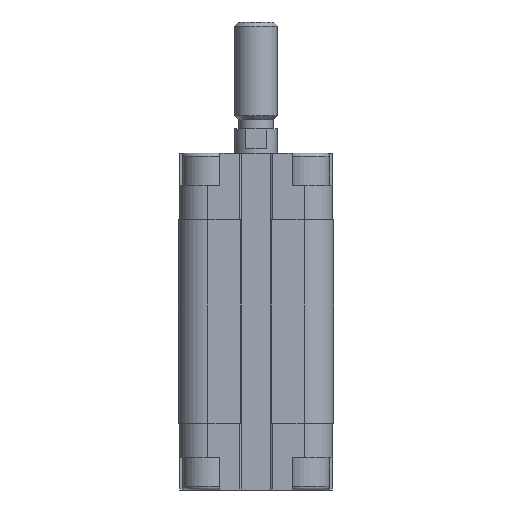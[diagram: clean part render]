
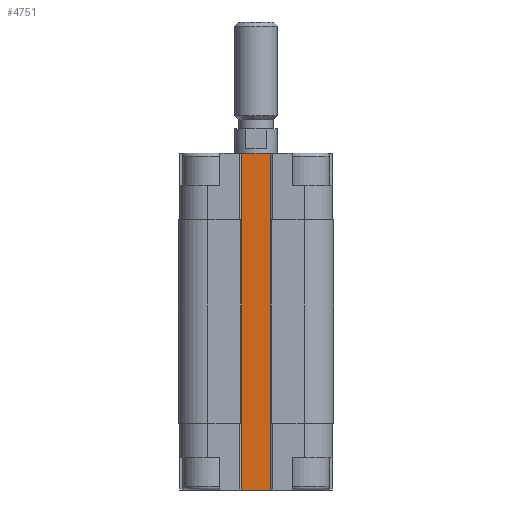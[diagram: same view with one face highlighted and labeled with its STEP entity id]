
A CAD part, front view. The second image highlights one B-rep face of the part: STEP entity #4751.
In plain terms, the highlighted planar face has unit normal (0, -1, 0).
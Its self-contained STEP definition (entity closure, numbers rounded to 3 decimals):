
#383 = DIRECTION ( 'NONE',  ( 0., 0., 1. ) ) ;
#384 = CARTESIAN_POINT ( 'NONE',  ( 3.2, -9.5, -12.5 ) ) ;
#398 = DIRECTION ( 'NONE',  ( 1., 0., 0. ) ) ;
#995 = DIRECTION ( 'NONE',  ( 0., -1., 0. ) ) ;
#1603 = LINE ( 'NONE', #5658, #8172 ) ;
#1624 = AXIS2_PLACEMENT_3D ( 'NONE', #15915, #995, #2578 ) ;
#1712 = CARTESIAN_POINT ( 'NONE',  ( -3., -9.5, -63. ) ) ;
#1812 = EDGE_LOOP ( 'NONE', ( #7230, #3073, #16179, #3299, #11710, #7163, #3536, #6848, #10404, #12597, #16620, #10154 ) ) ;
#2199 = LINE ( 'NONE', #10099, #15959 ) ;
#2317 = PLANE ( 'NONE',  #1624 ) ;
#2375 = VERTEX_POINT ( 'NONE', #1712 ) ;
#2422 = EDGE_CURVE ( 'NONE', #13004, #3143, #13566, .T. ) ;
#2578 = DIRECTION ( 'NONE',  ( -1., 0., 0. ) ) ;
#3073 = ORIENTED_EDGE ( 'NONE', *, *, #7999, .F. ) ;
#3143 = VERTEX_POINT ( 'NONE', #15810 ) ;
#3166 = CARTESIAN_POINT ( 'NONE',  ( 3., -9.5, 0. ) ) ;
#3299 = ORIENTED_EDGE ( 'NONE', *, *, #17284, .F. ) ;
#3475 = CARTESIAN_POINT ( 'NONE',  ( -3.2, -9.5, -50.5 ) ) ;
#3536 = ORIENTED_EDGE ( 'NONE', *, *, #15152, .T. ) ;
#3819 = EDGE_CURVE ( 'NONE', #2375, #3143, #15523, .T. ) ;
#3916 = EDGE_CURVE ( 'NONE', #9414, #4518, #9106, .T. ) ;
#4431 = CARTESIAN_POINT ( 'NONE',  ( -3.2, -9.5, -12.5 ) ) ;
#4459 = VECTOR ( 'NONE', #14653, 1000. ) ;
#4518 = VERTEX_POINT ( 'NONE', #384 ) ;
#4751 = ADVANCED_FACE ( 'NONE', ( #13033 ), #2317, .T. ) ;
#5451 = LINE ( 'NONE', #12118, #15737 ) ;
#5615 = VECTOR ( 'NONE', #6102, 1000. ) ;
#5658 = CARTESIAN_POINT ( 'NONE',  ( -3., -9.5, -12.5 ) ) ;
#5876 = LINE ( 'NONE', #9816, #13438 ) ;
#5997 = CARTESIAN_POINT ( 'NONE',  ( -3.2, -9.5, -50.5 ) ) ;
#6009 = DIRECTION ( 'NONE',  ( 0., 0., 1. ) ) ;
#6102 = DIRECTION ( 'NONE',  ( 1., 0., 0. ) ) ;
#6222 = EDGE_CURVE ( 'NONE', #11779, #4518, #2199, .T. ) ;
#6324 = DIRECTION ( 'NONE',  ( 1., 0., 0. ) ) ;
#6642 = VERTEX_POINT ( 'NONE', #11388 ) ;
#6848 = ORIENTED_EDGE ( 'NONE', *, *, #8843, .T. ) ;
#7059 = VECTOR ( 'NONE', #17151, 1000. ) ;
#7163 = ORIENTED_EDGE ( 'NONE', *, *, #3819, .F. ) ;
#7230 = ORIENTED_EDGE ( 'NONE', *, *, #15024, .F. ) ;
#7262 = CARTESIAN_POINT ( 'NONE',  ( 3., -9.5, -63. ) ) ;
#7343 = VECTOR ( 'NONE', #14796, 1000. ) ;
#7435 = DIRECTION ( 'NONE',  ( 0., 0., 1. ) ) ;
#7561 = DIRECTION ( 'NONE',  ( 1., 0., 0. ) ) ;
#7609 = EDGE_CURVE ( 'NONE', #11377, #13547, #10847, .T. ) ;
#7638 = VECTOR ( 'NONE', #6009, 1000. ) ;
#7999 = EDGE_CURVE ( 'NONE', #13547, #16483, #1603, .T. ) ;
#8172 = VECTOR ( 'NONE', #383, 1000. ) ;
#8843 = EDGE_CURVE ( 'NONE', #14906, #6642, #5451, .T. ) ;
#9106 = LINE ( 'NONE', #11918, #4459 ) ;
#9242 = VECTOR ( 'NONE', #7435, 1000. ) ;
#9414 = VERTEX_POINT ( 'NONE', #14353 ) ;
#9816 = CARTESIAN_POINT ( 'NONE',  ( -3., -9.5, 0. ) ) ;
#10099 = CARTESIAN_POINT ( 'NONE',  ( 9., -9.5, -12.5 ) ) ;
#10154 = ORIENTED_EDGE ( 'NONE', *, *, #17199, .T. ) ;
#10163 = CARTESIAN_POINT ( 'NONE',  ( -3., -9.5, -63. ) ) ;
#10190 = CARTESIAN_POINT ( 'NONE',  ( 3., -9.5, -12.5 ) ) ;
#10404 = ORIENTED_EDGE ( 'NONE', *, *, #12559, .T. ) ;
#10478 = CARTESIAN_POINT ( 'NONE',  ( 3., -9.5, -12.5 ) ) ;
#10602 = CARTESIAN_POINT ( 'NONE',  ( -3., -9.5, -12.5 ) ) ;
#10847 = LINE ( 'NONE', #4431, #14153 ) ;
#11377 = VERTEX_POINT ( 'NONE', #12845 ) ;
#11388 = CARTESIAN_POINT ( 'NONE',  ( 3., -9.5, -50.5 ) ) ;
#11710 = ORIENTED_EDGE ( 'NONE', *, *, #2422, .T. ) ;
#11779 = VERTEX_POINT ( 'NONE', #10190 ) ;
#11918 = CARTESIAN_POINT ( 'NONE',  ( 3.2, -9.5, -50.5 ) ) ;
#12118 = CARTESIAN_POINT ( 'NONE',  ( 3., -9.5, -63. ) ) ;
#12544 = DIRECTION ( 'NONE',  ( 1., 0., 0. ) ) ;
#12559 = EDGE_CURVE ( 'NONE', #6642, #9414, #14277, .T. ) ;
#12597 = ORIENTED_EDGE ( 'NONE', *, *, #3916, .T. ) ;
#12816 = LINE ( 'NONE', #12910, #14846 ) ;
#12845 = CARTESIAN_POINT ( 'NONE',  ( -3.2, -9.5, -12.5 ) ) ;
#12910 = CARTESIAN_POINT ( 'NONE',  ( -3., -9.5, -63. ) ) ;
#13004 = VERTEX_POINT ( 'NONE', #5997 ) ;
#13033 = FACE_OUTER_BOUND ( 'NONE', #1812, .T. ) ;
#13438 = VECTOR ( 'NONE', #12544, 1000. ) ;
#13547 = VERTEX_POINT ( 'NONE', #10602 ) ;
#13566 = LINE ( 'NONE', #16290, #7343 ) ;
#14106 = CARTESIAN_POINT ( 'NONE',  ( -3.2, -9.5, -50.5 ) ) ;
#14153 = VECTOR ( 'NONE', #398, 1000. ) ;
#14277 = LINE ( 'NONE', #14106, #5615 ) ;
#14353 = CARTESIAN_POINT ( 'NONE',  ( 3.2, -9.5, -50.5 ) ) ;
#14653 = DIRECTION ( 'NONE',  ( 0., 0., 1. ) ) ;
#14744 = CARTESIAN_POINT ( 'NONE',  ( -3., -9.5, 0. ) ) ;
#14796 = DIRECTION ( 'NONE',  ( 1., 0., 0. ) ) ;
#14846 = VECTOR ( 'NONE', #6324, 1000. ) ;
#14906 = VERTEX_POINT ( 'NONE', #7262 ) ;
#15024 = EDGE_CURVE ( 'NONE', #16483, #15036, #5876, .T. ) ;
#15036 = VERTEX_POINT ( 'NONE', #3166 ) ;
#15152 = EDGE_CURVE ( 'NONE', #2375, #14906, #12816, .T. ) ;
#15504 = LINE ( 'NONE', #3475, #7638 ) ;
#15523 = LINE ( 'NONE', #10163, #9242 ) ;
#15737 = VECTOR ( 'NONE', #16332, 1000. ) ;
#15810 = CARTESIAN_POINT ( 'NONE',  ( -3., -9.5, -50.5 ) ) ;
#15915 = CARTESIAN_POINT ( 'NONE',  ( -3., -9.5, -12.5 ) ) ;
#15959 = VECTOR ( 'NONE', #7561, 1000. ) ;
#16179 = ORIENTED_EDGE ( 'NONE', *, *, #7609, .F. ) ;
#16290 = CARTESIAN_POINT ( 'NONE',  ( -3.2, -9.5, -50.5 ) ) ;
#16332 = DIRECTION ( 'NONE',  ( 0., 0., 1. ) ) ;
#16483 = VERTEX_POINT ( 'NONE', #14744 ) ;
#16620 = ORIENTED_EDGE ( 'NONE', *, *, #6222, .F. ) ;
#16722 = LINE ( 'NONE', #10478, #7059 ) ;
#17151 = DIRECTION ( 'NONE',  ( 0., 0., 1. ) ) ;
#17199 = EDGE_CURVE ( 'NONE', #11779, #15036, #16722, .T. ) ;
#17284 = EDGE_CURVE ( 'NONE', #13004, #11377, #15504, .T. ) ;
